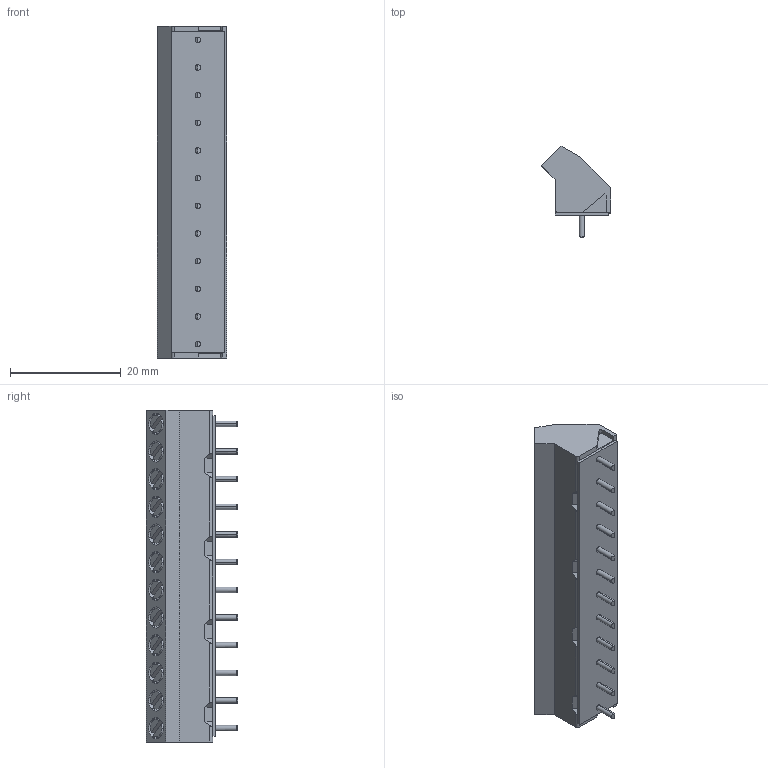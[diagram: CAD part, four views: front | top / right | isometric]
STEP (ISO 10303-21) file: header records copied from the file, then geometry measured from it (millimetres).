
FILE_DESCRIPTION (( 'STEP AP214' ), '1' );
FILE_NAME ('974-BP-DS-12.STEP', '2009-02-20T05:54:17', ( ' ' ), ( '' ), 'SwSTEP 2.0', 'SolidWorks 2007', '' );
FILE_SCHEMA (( 'AUTOMOTIVE_DESIGN' ));
Length unit declared in the file: millimetre
Products named in the file (1): 974-BP-DS-12
Bounding box: 12.5 x 16.5 x 60 mm (x, y, z)
Volume: 5252.7 mm3; surface area: 5357 mm2
Topology: 12 solids, 12 shells, 1319 faces, 3733 edges, 2414 vertices
Faces by surface type: plane 857, cylinder 246, cone 120, bspline 96
Entity records: 46609 total; most frequent: CARTESIAN_POINT 13302, ORIENTED_EDGE 7466, DIRECTION 6291, EDGE_CURVE 3733, VERTEX_POINT 2414, VECTOR 2347, LINE 2347, AXIS2_PLACEMENT_3D 1972
